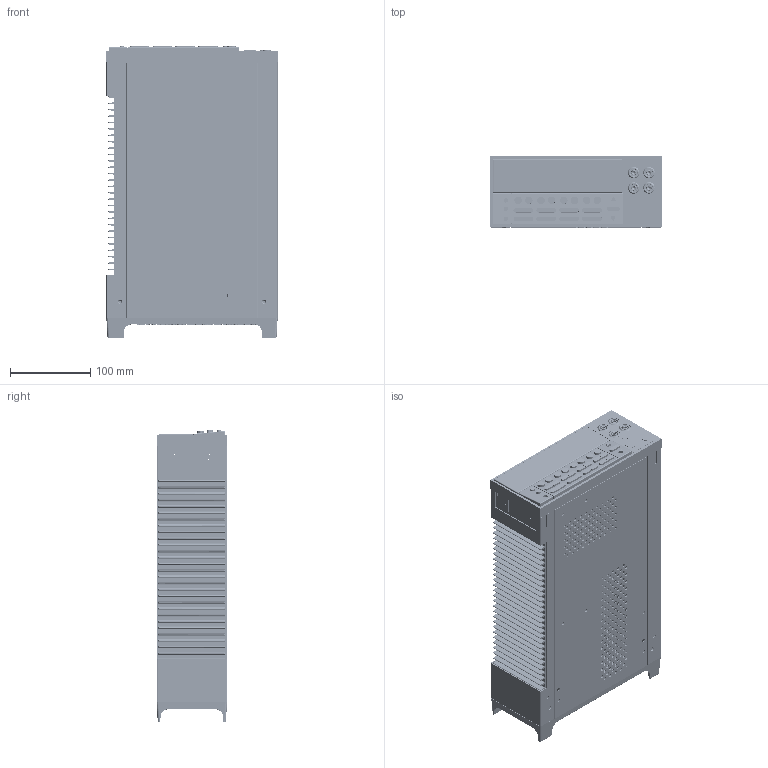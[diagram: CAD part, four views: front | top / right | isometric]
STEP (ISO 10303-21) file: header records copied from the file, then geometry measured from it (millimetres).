
FILE_DESCRIPTION((''),'2;1');
FILE_NAME('2410_ASM','2015-08-11T',('dking'),('Keithley Instruments'),'CREO PARAMETRIC BY PTC INC, 2014440','CREO PARAMETRIC BY PTC INC, 2014440','');
FILE_SCHEMA(('CONFIG_CONTROL_DESIGN'));
Length unit declared in the file: inch
Products named in the file (39): 2400-301; 2400-303; 2400-304; 2400-303_ASM; 2400-302_ASM; BJ-14-SHELL; BJ-14-PIN; BJ-14-0_ASM; BJ-14-2_ASM; BJ-14-9_ASM; BJ-14-6_ASM; 2400-333; CS-507; CS-761-9; CS-792; CS-848-9; 2400-140_ASM; CS-713; CS-725; LF-11-PURCHPART; 2400-308; 2400-ANALOG-SHIELD-ASSY_ASM; 2001-302_AF0; 2400-318_ASM; 2400-307; 2400-306_ASM; 2001-318; 2400-337_ASM; 2400-313-NO-TAIL; 2400-313_ASM; 2400-110; GCS-1-2; 2000-324; GCS-1-2_ASM; 2400-311_ASM; 2400-FRONT-PANEL_ASM; 2400-317; 428-303; 2410_ASM
Assembly tree (55 placements, depth 5):
  2410_ASM
    2400-302_ASM
      2400-301
      2400-303_ASM
        2400-303
        2400-304
    BJ-14-0_ASM  x2
      BJ-14-SHELL
      BJ-14-PIN
    BJ-14-2_ASM  x2
      BJ-14-SHELL
      BJ-14-PIN
    BJ-14-9_ASM
      BJ-14-SHELL
      BJ-14-PIN
    BJ-14-6_ASM
      BJ-14-SHELL
      BJ-14-PIN
    2400-333  x2
    2400-140_ASM
      CS-507
      CS-761-9
      CS-792
      CS-848-9
    CS-713  x2
    CS-725  x4
    LF-11-PURCHPART
    2400-ANALOG-SHIELD-ASSY_ASM
      2400-308
    2400-FRONT-PANEL_ASM
      2400-306_ASM
        2400-318_ASM
          2001-302_AF0
        2400-307
      2400-337_ASM
        2001-318
      2400-313_ASM
        2400-313-NO-TAIL
      BJ-14-2_ASM  x2
        BJ-14-SHELL
        BJ-14-PIN
      BJ-14-0_ASM  x2
        BJ-14-SHELL
        BJ-14-PIN
      2400-110
      2400-311_ASM
        GCS-1-2_ASM
          GCS-1-2
          2000-324
    2400-317
    428-303
Bounding box: 213.87 x 88.54 x 365.68 mm (x, y, z)
Volume: 793973 mm3; surface area: 741170.3 mm2
Topology: 47 solids, 47 shells, 6717 faces, 18180 edges, 11992 vertices
Faces by surface type: plane 4557, cylinder 1872, cone 156, torus 89, sphere 24, bspline 19
Entity records: 192830 total; most frequent: CARTESIAN_POINT 36116, ORIENTED_EDGE 32800, DIRECTION 31055, EDGE_CURVE 16400, VECTOR 13039, LINE 13039, VERTEX_POINT 10887, AXIS2_PLACEMENT_3D 9008
